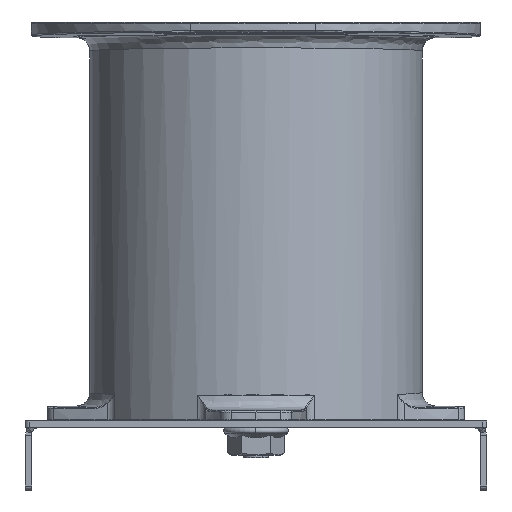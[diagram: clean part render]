
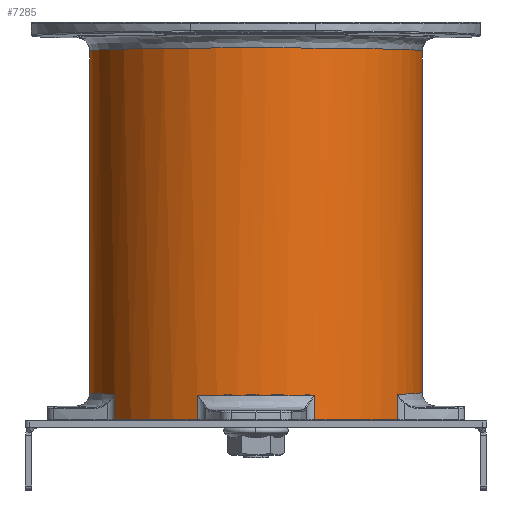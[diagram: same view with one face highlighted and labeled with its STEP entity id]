
A CAD part, left-side view. The second image highlights one B-rep face of the part: STEP entity #7285.
In plain terms, the highlighted cylindrical face has radius 31.75 mm (diameter 63.5 mm), a partial arc.
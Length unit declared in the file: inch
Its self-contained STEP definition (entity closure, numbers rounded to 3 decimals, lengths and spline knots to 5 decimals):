
#3234=CARTESIAN_POINT('',(-1.24996,0.01008,
2.78206));
#3974=CARTESIAN_POINT('',(1.24996,0.01008,
0.21253));
#3995=CARTESIAN_POINT('',(1.06362,0.65667,
0.20034));
#3997=DIRECTION('',(0.,0.,-1.));
#3998=VECTOR('',#3997,0.19034);
#3999=CARTESIAN_POINT('',(1.06362,0.65667,
0.20034));
#4000=LINE('',#3999,#3998);
#4006=DIRECTION('',(0.,0.,-1.));
#4007=VECTOR('',#4006,2.56953);
#4008=CARTESIAN_POINT('',(1.24996,0.01008,2.78206));
#4009=LINE('',#4008,#4007);
#4010=CARTESIAN_POINT('',(1.24996,0.01008,2.78206));
#4011=CARTESIAN_POINT('',(1.24966,0.04729,2.78276));
#4012=CARTESIAN_POINT('',(1.24573,0.11984,2.78413));
#4013=CARTESIAN_POINT('',(1.23158,0.22151,2.78605));
#4014=CARTESIAN_POINT('',(1.21018,0.31798,2.78787));
#4015=CARTESIAN_POINT('',(1.18208,0.41016,2.7896));
#4016=CARTESIAN_POINT('',(1.14735,0.49914,2.79128));
#4017=CARTESIAN_POINT('',(1.10555,0.58599,2.79292));
#4018=CARTESIAN_POINT('',(1.05721,0.66919,2.79449));
#4019=CARTESIAN_POINT('',(1.00394,0.74672,2.79595));
#4020=CARTESIAN_POINT('',(0.94273,0.82292,
2.79738));
#4021=CARTESIAN_POINT('',(0.86892,0.90103,
2.79886));
#4022=CARTESIAN_POINT('',(0.77609,0.9829,
2.8004));
#4023=CARTESIAN_POINT('',(0.65976,1.06526,2.80195));
#4024=CARTESIAN_POINT('',(0.51993,1.14082,2.80338));
#4025=CARTESIAN_POINT('',(0.35719,1.20233,2.80454));
#4026=CARTESIAN_POINT('',(0.1802,1.24137,2.80527));
#4027=CARTESIAN_POINT('',(-0.00023,1.25433,
2.80552));
#4028=CARTESIAN_POINT('',(-0.18066,1.24131,
2.80527));
#4029=CARTESIAN_POINT('',(-0.35761,1.2022,
2.80453));
#4030=CARTESIAN_POINT('',(-0.52025,1.14066,
2.80337));
#4031=CARTESIAN_POINT('',(-0.65996,1.06513,
2.80195));
#4032=CARTESIAN_POINT('',(-0.77618,0.98282,
2.8004));
#4033=CARTESIAN_POINT('',(-0.8689,0.90104,
2.79886));
#4034=CARTESIAN_POINT('',(-0.94265,0.823,
2.79739));
#4035=CARTESIAN_POINT('',(-1.00385,0.74685,
2.79595));
#4036=CARTESIAN_POINT('',(-1.05712,0.66932,
2.79449));
#4037=CARTESIAN_POINT('',(-1.10548,0.58612,
2.79292));
#4038=CARTESIAN_POINT('',(-1.14729,0.49928,
2.79128));
#4039=CARTESIAN_POINT('',(-1.18203,0.41031,
2.78961));
#4040=CARTESIAN_POINT('',(-1.21015,0.31812,
2.78787));
#4041=CARTESIAN_POINT('',(-1.23156,0.22163,
2.78605));
#4042=CARTESIAN_POINT('',(-1.24573,0.11991,
2.78413));
#4043=CARTESIAN_POINT('',(-1.24966,0.04731,
2.78276));
#4044=CARTESIAN_POINT('',(-1.24996,0.01008,
2.78206));
#4046=DIRECTION('',(0.,0.,1.));
#4047=VECTOR('',#4046,2.56953);
#4048=CARTESIAN_POINT('',(-1.24996,0.01008,
0.21253));
#4049=LINE('',#4048,#4047);
#4050=CARTESIAN_POINT('',(-1.24996,0.01008,
0.21253));
#4051=CARTESIAN_POINT('',(-1.24967,0.04655,
0.21184));
#4052=CARTESIAN_POINT('',(-1.24588,0.11768,
0.2105));
#4053=CARTESIAN_POINT('',(-1.23225,0.21748,
0.20862));
#4054=CARTESIAN_POINT('',(-1.21164,0.31222,
0.20683));
#4055=CARTESIAN_POINT('',(-1.18457,0.40277,
0.20513));
#4056=CARTESIAN_POINT('',(-1.15119,0.49011,
0.20348));
#4057=CARTESIAN_POINT('',(-1.11095,0.57556,
0.20188));
#4058=CARTESIAN_POINT('',(-1.08006,0.63003,
0.20081));
#4059=CARTESIAN_POINT('',(-1.06363,0.65665,
0.20031));
#4061=CARTESIAN_POINT('',(0.,0.,0.01));
#4062=DIRECTION('',(0.,0.,-1.));
#4063=DIRECTION('',(-0.851,0.525,0.));
#4064=AXIS2_PLACEMENT_3D('',#4061,#4062,#4063);
#4066=CARTESIAN_POINT('',(-0.44165,1.16938,
0.19067));
#4067=CARTESIAN_POINT('',(-0.40249,1.18417,
0.19039));
#4068=CARTESIAN_POINT('',(-0.32202,1.21009,
0.18991));
#4069=CARTESIAN_POINT('',(-0.19495,1.237,
0.1894));
#4070=CARTESIAN_POINT('',(-0.06522,1.25057,
0.18914));
#4071=CARTESIAN_POINT('',(0.06538,1.25056,
0.18914));
#4072=CARTESIAN_POINT('',(0.19513,1.23697,
0.1894));
#4073=CARTESIAN_POINT('',(0.32215,1.21005,
0.18991));
#4074=CARTESIAN_POINT('',(0.40254,1.18415,
0.1904));
#4075=CARTESIAN_POINT('',(0.44165,1.16938,
0.19067));
#4077=CARTESIAN_POINT('',(0.,0.,0.01));
#4078=DIRECTION('',(0.,0.,-1.));
#4079=DIRECTION('',(0.353,0.936,0.));
#4080=AXIS2_PLACEMENT_3D('',#4077,#4078,#4079);
#4082=CARTESIAN_POINT('',(1.06362,0.65667,
0.20034));
#4083=CARTESIAN_POINT('',(1.08005,0.63005,
0.20084));
#4084=CARTESIAN_POINT('',(1.11094,0.57557,
0.20187));
#4085=CARTESIAN_POINT('',(1.1512,0.49008,
0.20348));
#4086=CARTESIAN_POINT('',(1.18458,0.40272,
0.20513));
#4087=CARTESIAN_POINT('',(1.21165,0.31215,
0.20683));
#4088=CARTESIAN_POINT('',(1.23226,0.21742,
0.20862));
#4089=CARTESIAN_POINT('',(1.24589,0.11764,
0.2105));
#4090=CARTESIAN_POINT('',(1.24967,0.04653,
0.21184));
#4091=CARTESIAN_POINT('',(1.24996,0.01008,
0.21253));
#4235=CARTESIAN_POINT('',(-1.06363,0.65665,
0.20031));
#4365=DIRECTION('',(0.,0.,1.));
#4366=VECTOR('',#4365,0.19031);
#4367=CARTESIAN_POINT('',(-1.06362,0.65667,0.01));
#4368=LINE('',#4367,#4366);
#4384=CARTESIAN_POINT('',(-0.44165,1.16938,
0.19067));
#4386=DIRECTION('',(0.,0.,-1.));
#4387=VECTOR('',#4386,0.18067);
#4388=CARTESIAN_POINT('',(-0.44165,1.16938,
0.19067));
#4389=LINE('',#4388,#4387);
#4434=CARTESIAN_POINT('',(0.44165,1.16938,
0.19067));
#4482=DIRECTION('',(0.,0.,1.));
#4483=VECTOR('',#4482,0.18067);
#4484=CARTESIAN_POINT('',(0.44165,1.16938,0.01));
#4485=LINE('',#4484,#4483);
#4772=VERTEX_POINT('',#3995);
#4788=VERTEX_POINT('',#3974);
#4790=CARTESIAN_POINT('',(1.24996,0.01008,2.78206));
#4791=VERTEX_POINT('',#4790);
#4814=VERTEX_POINT('',#3234);
#4816=CARTESIAN_POINT('',(-1.24996,0.01008,
0.21253));
#4817=VERTEX_POINT('',#4816);
#4836=VERTEX_POINT('',#4235);
#4838=VERTEX_POINT('',#4384);
#4856=VERTEX_POINT('',#4434);
#4862=CARTESIAN_POINT('',(0.44165,1.16938,0.01));
#4864=VERTEX_POINT('',#4862);
#4867=CARTESIAN_POINT('',(1.06362,0.65667,0.01));
#4868=VERTEX_POINT('',#4867);
#4911=CARTESIAN_POINT('',(-1.06362,0.65667,0.01));
#4912=VERTEX_POINT('',#4911);
#4915=CARTESIAN_POINT('',(-0.44165,1.16938,0.01));
#4916=VERTEX_POINT('',#4915);
#7259=CARTESIAN_POINT('',(0.,0.,-0.15));
#7260=DIRECTION('',(0.,0.,1.));
#7261=DIRECTION('',(-1.,0.,0.));
#7262=AXIS2_PLACEMENT_3D('',#7259,#7260,#7261);
#7263=CYLINDRICAL_SURFACE('',#7262,1.25);
#7265=ORIENTED_EDGE('',*,*,#7264,.F.);
#7266=ORIENTED_EDGE('',*,*,#5630,.T.);
#7268=ORIENTED_EDGE('',*,*,#7267,.F.);
#7270=ORIENTED_EDGE('',*,*,#7269,.T.);
#7272=ORIENTED_EDGE('',*,*,#7271,.F.);
#7273=ORIENTED_EDGE('',*,*,#6863,.T.);
#7275=ORIENTED_EDGE('',*,*,#7274,.F.);
#7277=ORIENTED_EDGE('',*,*,#7276,.T.);
#7279=ORIENTED_EDGE('',*,*,#7278,.F.);
#7280=ORIENTED_EDGE('',*,*,#6696,.T.);
#7281=ORIENTED_EDGE('',*,*,#7251,.F.);
#7282=ORIENTED_EDGE('',*,*,#7208,.T.);
#7283=EDGE_LOOP('',(#7265,#7266,#7268,#7270,#7272,#7273,#7275,#7277,#7279,#7280,
#7281,#7282));
#7284=FACE_OUTER_BOUND('',#7283,.F.);
#7285=ADVANCED_FACE('',(#7284),#7263,.T.);
#4045=B_SPLINE_CURVE_WITH_KNOTS('',3,(#4010,#4011,#4012,#4013,#4014,#4015,#4016,
#4017,#4018,#4019,#4020,#4021,#4022,#4023,#4024,#4025,#4026,#4027,#4028,#4029,
#4030,#4031,#4032,#4033,#4034,#4035,#4036,#4037,#4038,#4039,#4040,#4041,#4042,
#4043,#4044),.UNSPECIFIED.,.F.,.F.,(4,1,1,1,1,1,1,1,1,1,1,1,1,1,1,1,1,1,1,1,1,1,
1,1,1,1,1,1,1,1,1,1,4),(0.,0.03125,0.0625,0.09375,0.125,0.15625,
0.1875,0.21875,0.25,0.28125,0.3125,0.34375,0.375,0.40625,
0.4375,0.46875,0.5,0.53125,0.5625,0.59375,0.625,0.65625,
0.6875,0.71875,0.75,0.78125,0.8125,0.84375,0.875,0.90625,
0.9375,0.96875,1.),.UNSPECIFIED.);
#4060=B_SPLINE_CURVE_WITH_KNOTS('',3,(#4050,#4051,#4052,#4053,#4054,#4055,#4056,
#4057,#4058,#4059),.UNSPECIFIED.,.F.,.F.,(4,1,1,1,1,1,1,4),(0.,
0.14286,0.28571,0.42857,0.57143,
0.71429,0.85714,1.),.UNSPECIFIED.);
#4065=CIRCLE('',#4064,1.25);
#4076=B_SPLINE_CURVE_WITH_KNOTS('',3,(#4066,#4067,#4068,#4069,#4070,#4071,#4072,
#4073,#4074,#4075),.UNSPECIFIED.,.F.,.F.,(4,1,1,1,1,1,1,4),(0.,
0.14286,0.28571,0.42857,0.57143,
0.71429,0.85714,1.),.UNSPECIFIED.);
#4081=CIRCLE('',#4080,1.25);
#4092=B_SPLINE_CURVE_WITH_KNOTS('',3,(#4082,#4083,#4084,#4085,#4086,#4087,#4088,
#4089,#4090,#4091),.UNSPECIFIED.,.F.,.F.,(4,1,1,1,1,1,1,4),(0.,
0.14286,0.28571,0.42857,0.57143,
0.71429,0.85714,1.),.UNSPECIFIED.);
#5630=EDGE_CURVE('',#4791,#4814,#4045,.T.);
#6696=EDGE_CURVE('',#4864,#4868,#4081,.T.);
#6863=EDGE_CURVE('',#4912,#4916,#4065,.T.);
#7208=EDGE_CURVE('',#4772,#4788,#4092,.T.);
#7251=EDGE_CURVE('',#4772,#4868,#4000,.T.);
#7264=EDGE_CURVE('',#4791,#4788,#4009,.T.);
#7267=EDGE_CURVE('',#4817,#4814,#4049,.T.);
#7269=EDGE_CURVE('',#4817,#4836,#4060,.T.);
#7271=EDGE_CURVE('',#4912,#4836,#4368,.T.);
#7274=EDGE_CURVE('',#4838,#4916,#4389,.T.);
#7276=EDGE_CURVE('',#4838,#4856,#4076,.T.);
#7278=EDGE_CURVE('',#4864,#4856,#4485,.T.);
